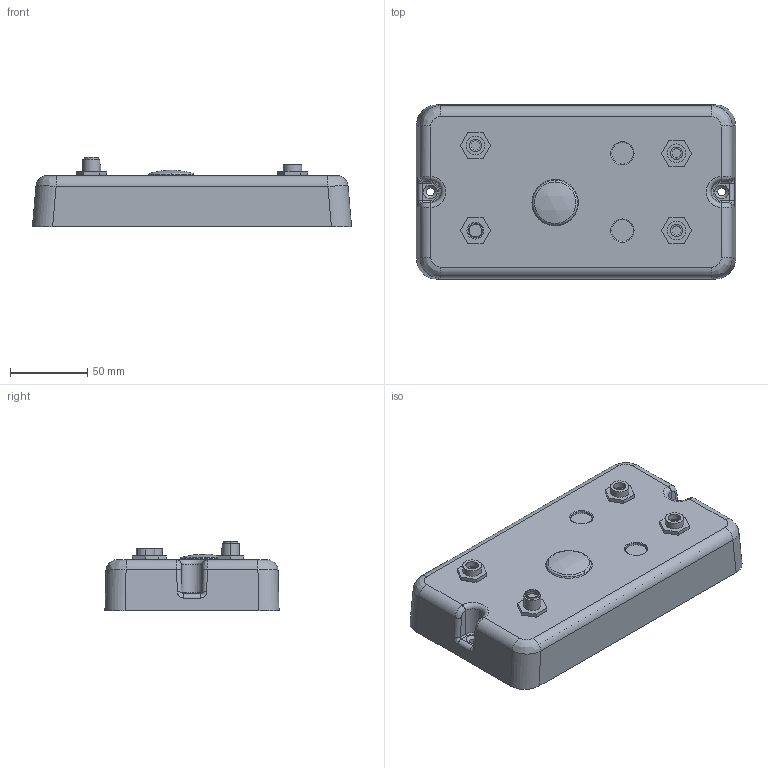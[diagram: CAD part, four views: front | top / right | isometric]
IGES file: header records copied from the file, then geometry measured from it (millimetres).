
Global section: file name: No Iges File Name specified; native system: Autodesk Inventor 2011; preprocessor: AutoDesk Inventor Iges Exporter R2011; author: Trivella; date: 20120413.113559; units: millimetre
Bounding box: 206.27 x 112.57 x 45 mm (x, y, z)
Volume: 172586.2 mm3; surface area: 175354.8 mm2
Topology: 27 solids, 27 shells, 543 faces, 1319 edges, 831 vertices
Faces by surface type: plane 245, revolution 91, bspline 88, cylinder 58, torus 50, cone 10, sphere 1
